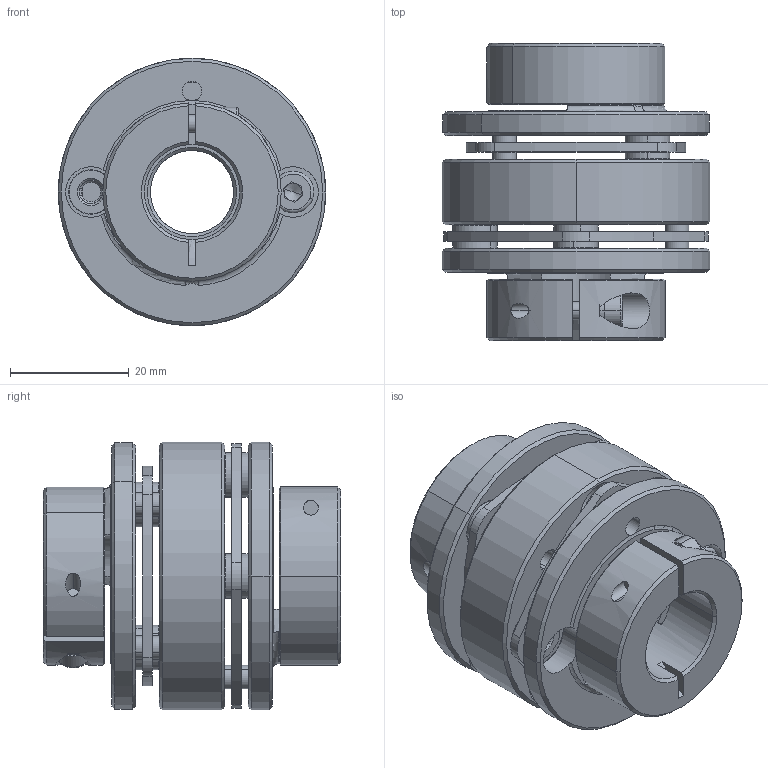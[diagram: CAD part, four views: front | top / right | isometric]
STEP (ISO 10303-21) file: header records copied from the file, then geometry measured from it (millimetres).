
FILE_DESCRIPTION (( 'STEP AP203' ), '1' );
FILE_NAME ('LE2-B-D45L50-14-16.STEP', '2021-11-01T06:50:47', ( '' ), ( '' ), 'SwSTEP 2.0', 'SolidWorks 2018', '' );
FILE_SCHEMA (( 'CONFIG_CONTROL_DESIGN' ));
Length unit declared in the file: millimetre
Products named in the file (1): LE2-B-D45L50-14-16
Bounding box: 45 x 50 x 45 mm (x, y, z)
Volume: 34923.3 mm3; surface area: 23200.5 mm2
Topology: 1 solids, 5 shells, 498 faces, 1200 edges, 736 vertices
Faces by surface type: cylinder 182, cone 154, plane 142, torus 18, bspline 2
Entity records: 15025 total; most frequent: CARTESIAN_POINT 2871, DIRECTION 2770, ORIENTED_EDGE 2376, EDGE_CURVE 1188, AXIS2_PLACEMENT_3D 1133, VERTEX_POINT 736, CIRCLE 636, EDGE_LOOP 592
